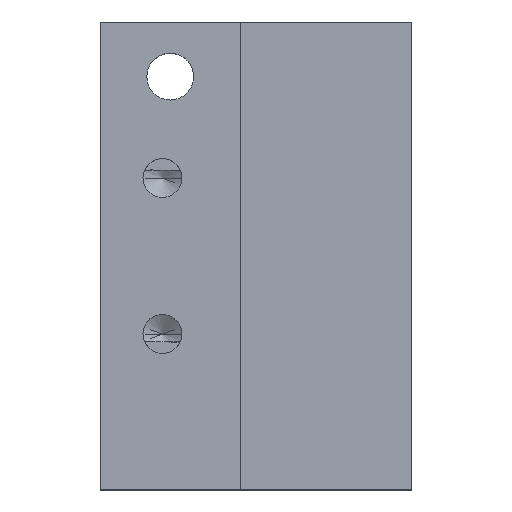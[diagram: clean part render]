
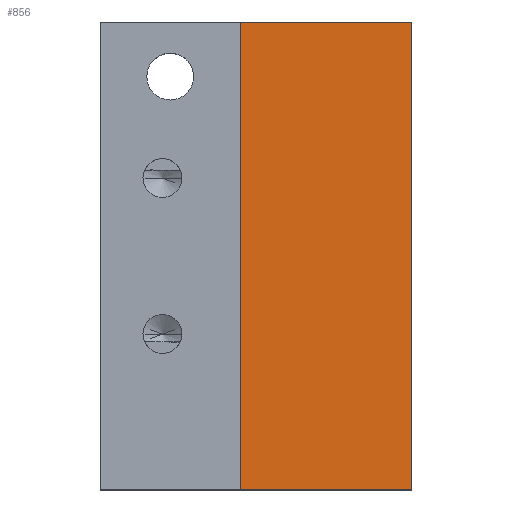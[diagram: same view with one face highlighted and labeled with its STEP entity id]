
A CAD part, top view. The second image highlights one B-rep face of the part: STEP entity #856.
In plain terms, the highlighted planar face has unit normal (0, 0, 1).
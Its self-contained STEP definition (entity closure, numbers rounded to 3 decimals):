
#20 = FACE_OUTER_BOUND ( 'NONE', #554, .T. ) ;
#85 = LINE ( 'NONE', #1097, #460 ) ;
#115 = CARTESIAN_POINT ( 'NONE',  ( 9., 0., 0. ) ) ;
#139 = EDGE_CURVE ( 'NONE', #1134, #582, #159, .T. ) ;
#159 = LINE ( 'NONE', #1168, #521 ) ;
#188 = LINE ( 'NONE', #1298, #551 ) ;
#259 = EDGE_CURVE ( 'NONE', #1140, #711, #85, .T. ) ;
#291 = CARTESIAN_POINT ( 'NONE',  ( 20., 0., 0. ) ) ;
#294 = DIRECTION ( 'NONE',  ( 0., -1., 0. ) ) ;
#369 = CARTESIAN_POINT ( 'NONE',  ( 20., -30., 0. ) ) ;
#460 = VECTOR ( 'NONE', #294, 1000. ) ;
#491 = CARTESIAN_POINT ( 'NONE',  ( 20., -30., 0. ) ) ;
#496 = ORIENTED_EDGE ( 'NONE', *, *, #139, .F. ) ;
#521 = VECTOR ( 'NONE', #1075, 1000. ) ;
#526 = ORIENTED_EDGE ( 'NONE', *, *, #259, .F. ) ;
#536 = ORIENTED_EDGE ( 'NONE', *, *, #1015, .F. ) ;
#551 = VECTOR ( 'NONE', #1021, 1000. ) ;
#554 = EDGE_LOOP ( 'NONE', ( #774, #496, #536, #526 ) ) ;
#582 = VERTEX_POINT ( 'NONE', #115 ) ;
#671 = EDGE_CURVE ( 'NONE', #1140, #582, #188, .T. ) ;
#674 = DIRECTION ( 'NONE',  ( -1., 0., 0. ) ) ;
#711 = VERTEX_POINT ( 'NONE', #491 ) ;
#774 = ORIENTED_EDGE ( 'NONE', *, *, #671, .T. ) ;
#819 = DIRECTION ( 'NONE',  ( 0., 0., -1. ) ) ;
#826 = DIRECTION ( 'NONE',  ( -1., 0., 0. ) ) ;
#856 = ADVANCED_FACE ( 'NONE', ( #20 ), #1048, .F. ) ;
#965 = LINE ( 'NONE', #369, #992 ) ;
#992 = VECTOR ( 'NONE', #674, 1000. ) ;
#1015 = EDGE_CURVE ( 'NONE', #711, #1134, #965, .T. ) ;
#1021 = DIRECTION ( 'NONE',  ( -1., 0., 0. ) ) ;
#1048 = PLANE ( 'NONE',  #1224 ) ;
#1075 = DIRECTION ( 'NONE',  ( 0., 1., 0. ) ) ;
#1097 = CARTESIAN_POINT ( 'NONE',  ( 20., 0., 0. ) ) ;
#1115 = CARTESIAN_POINT ( 'NONE',  ( 9., -30., 0. ) ) ;
#1134 = VERTEX_POINT ( 'NONE', #1115 ) ;
#1140 = VERTEX_POINT ( 'NONE', #291 ) ;
#1154 = CARTESIAN_POINT ( 'NONE',  ( 20., 0., 0. ) ) ;
#1168 = CARTESIAN_POINT ( 'NONE',  ( 9., 0., 0. ) ) ;
#1224 = AXIS2_PLACEMENT_3D ( 'NONE', #1154, #819, #826 ) ;
#1298 = CARTESIAN_POINT ( 'NONE',  ( 20., 0., 0. ) ) ;
